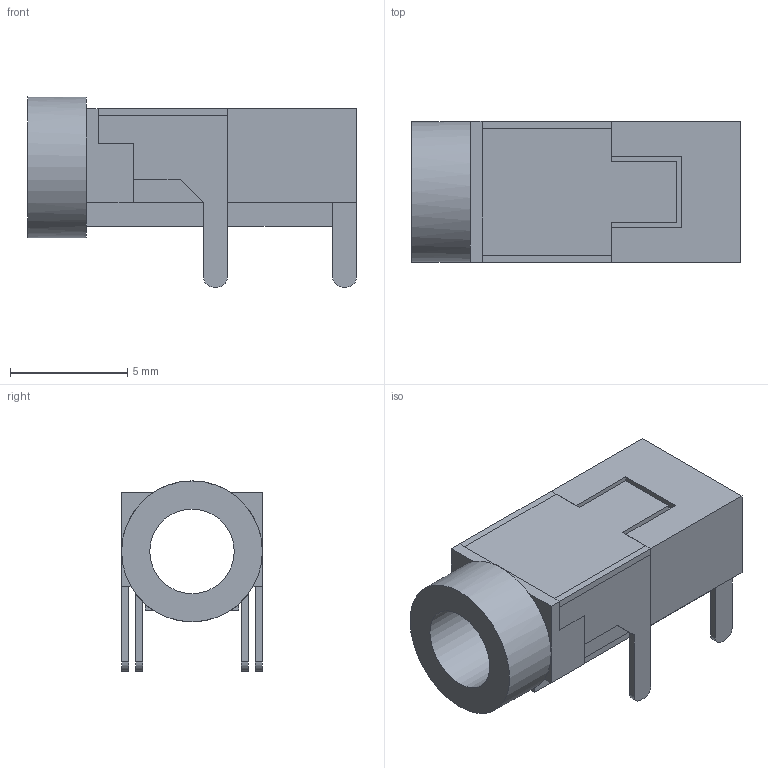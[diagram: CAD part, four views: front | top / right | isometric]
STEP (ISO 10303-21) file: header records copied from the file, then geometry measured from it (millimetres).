
FILE_DESCRIPTION(('FreeCAD Model'),'2;1');
FILE_NAME('Open CASCADE Shape Model','2021-03-06T09:27:43',('Author'),( ''),'Open CASCADE STEP processor 7.4','FreeCAD','Unknown');
FILE_SCHEMA(('AUTOMOTIVE_DESIGN { 1 0 10303 214 1 1 1 1 }'));
Length unit declared in the file: millimetre
Products named in the file (7): MJ_8435_r4; Part; Body; Part001; Body001; Body002; Body003
Assembly tree (6 placements, depth 3):
  MJ_8435_r4
    Part
      Body
    Part001
      Body001
      Body002
      Body003
Bounding box: 14 x 6 x 8.1 mm (x, y, z)
Volume: 252.4 mm3; surface area: 688.6 mm2
Topology: 4 solids, 4 shells, 98 faces, 239 edges, 149 vertices
Faces by surface type: plane 88, cylinder 10
Full cylindrical faces by diameter (mm): 3.6 x1, 6 x1
Entity records: 6128 total; most frequent: CARTESIAN_POINT 1085, DIRECTION 937, LINE 659, VECTOR 659, ORIENTED_EDGE 478, PCURVE 478, DEFINITIONAL_REPRESENTATION 478, EDGE_CURVE 239
